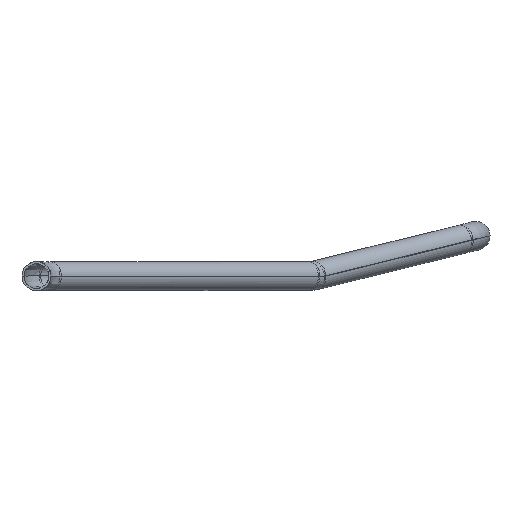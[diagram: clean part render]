
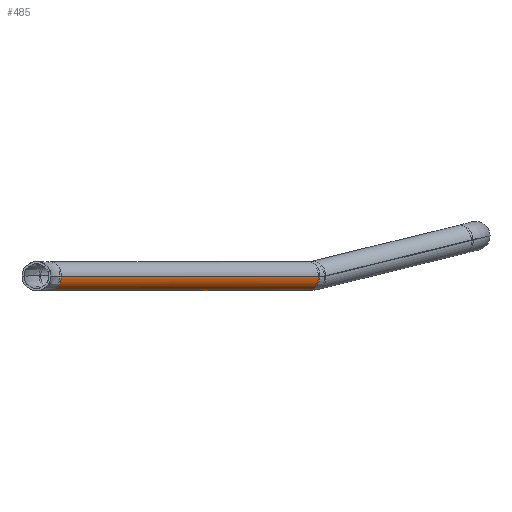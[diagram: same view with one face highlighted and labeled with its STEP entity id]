
A CAD part, front view. The second image highlights one B-rep face of the part: STEP entity #485.
In plain terms, the highlighted cylindrical face has radius 11 mm (diameter 22 mm), a partial arc.
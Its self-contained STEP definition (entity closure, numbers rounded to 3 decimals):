
#219=AXIS2_PLACEMENT_3D('Cylinder Axis2P3D',#216,#217,#218) ;
#476=AXIS2_PLACEMENT_3D('Circle Axis2P3D',#474,#475,$) ;
#187=CARTESIAN_POINT('Vertex',(-13985.798,496.135,281.829)) ;
#197=CARTESIAN_POINT('Vertex',(-13968.759,482.266,280.671)) ;
#216=CARTESIAN_POINT('Axis2P3D Location',(-14075.865,368.08,281.25)) ;
#221=CARTESIAN_POINT('Line Origine',(-14067.346,361.146,280.671)) ;
#225=CARTESIAN_POINT('Vertex',(-14165.932,240.025,280.671)) ;
#228=CARTESIAN_POINT('Line Origine',(-14084.384,375.015,281.829)) ;
#232=CARTESIAN_POINT('Vertex',(-14182.971,253.894,281.829)) ;
#459=CARTESIAN_POINT('Control Point',(-13968.759,482.266,280.671)) ;
#460=CARTESIAN_POINT('Control Point',(-13966.962,480.804,324.61)) ;
#461=CARTESIAN_POINT('Control Point',(-14001.938,509.272,304.957)) ;
#462=CARTESIAN_POINT('Control Point',(-14003.735,510.735,261.018)) ;
#463=CARTESIAN_POINT('Control Point',(-13970.556,483.729,236.732)) ;
#464=CARTESIAN_POINT('Control Point',(-13968.759,482.266,280.671)) ;
#474=CARTESIAN_POINT('Axis2P3D Location',(-14174.451,246.96,281.25)) ;
#217=DIRECTION('Axis2P3D Direction',(-0.631,-0.776,0.)) ;
#218=DIRECTION('Axis2P3D XDirection',(0.774,-0.63,-0.053)) ;
#222=DIRECTION('Vector Direction',(-0.631,-0.776,0.)) ;
#229=DIRECTION('Vector Direction',(-0.631,-0.776,0.)) ;
#475=DIRECTION('Axis2P3D Direction',(-0.631,-0.776,0.)) ;
#223=VECTOR('Line Direction',#222,1.) ;
#230=VECTOR('Line Direction',#229,1.) ;
#480=ORIENTED_EDGE('',*,*,#234,.F.) ;
#481=ORIENTED_EDGE('',*,*,#465,.T.) ;
#482=ORIENTED_EDGE('',*,*,#227,.T.) ;
#483=ORIENTED_EDGE('',*,*,#478,.F.) ;
#485=ADVANCED_FACE('( + ) PartBody',(#484),#220,.T.) ;
#477=CIRCLE('generated circle',#476,11.) ;
#220=CYLINDRICAL_SURFACE('generated cylinder',#219,11.) ;
#227=EDGE_CURVE('',#198,#226,#224,.T.) ;
#234=EDGE_CURVE('',#188,#233,#231,.T.) ;
#465=EDGE_CURVE('',#188,#198,#458,.T.) ;
#478=EDGE_CURVE('',#233,#226,#477,.T.) ;
#479=EDGE_LOOP('',(#480,#481,#482,#483)) ;
#484=FACE_OUTER_BOUND('',#479,.T.) ;
#224=LINE('Line',#221,#223) ;
#231=LINE('Line',#228,#230) ;
#188=VERTEX_POINT('',#187) ;
#198=VERTEX_POINT('',#197) ;
#226=VERTEX_POINT('',#225) ;
#233=VERTEX_POINT('',#232) ;
#458=(BOUNDED_CURVE()B_SPLINE_CURVE(5,(#459,#460,#461,#462,#463,#464),.UNSPECIFIED.,.F.,.U.)B_SPLINE_CURVE_WITH_KNOTS((6,6),(0.,69.115),.UNSPECIFIED.)CURVE()GEOMETRIC_REPRESENTATION_ITEM()RATIONAL_B_SPLINE_CURVE((1.,0.2,0.2,0.2,0.2,1.))REPRESENTATION_ITEM('')) ;
